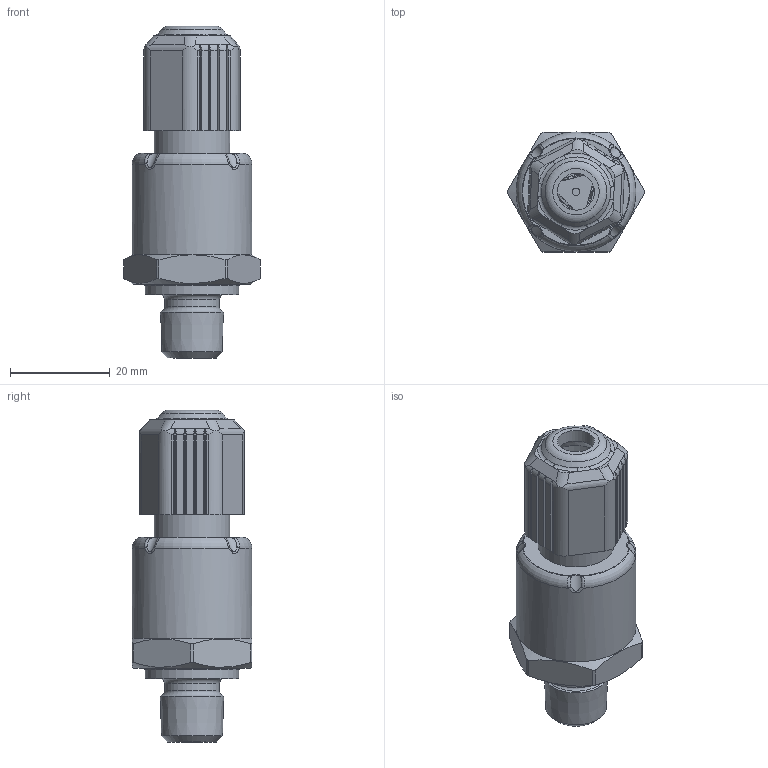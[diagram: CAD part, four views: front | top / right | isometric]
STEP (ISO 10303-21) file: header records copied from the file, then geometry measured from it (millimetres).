
FILE_DESCRIPTION(/* description */ (''),/* implementation_level */ '2;1');
FILE_NAME(/* name */ '560.xxxxAY0000.stp',/* time_stamp */ '2024-06-05T16:21:15+02:00',/* author */ ('uch10269'),/* organization */ (''),/* preprocessor_version */ 'ST-DEVELOPER v19.2',/* originating_system */ 'Autodesk Inventor 2023',/* authorisation */ '');
FILE_SCHEMA (('AUTOMOTIVE_DESIGN { 1 0 10303 214 3 1 1 }'));
Length unit declared in the file: millimetre
Products named in the file (1): Part7
Bounding box: 27.4 x 24 x 66.47 mm (x, y, z)
Volume: 18464.7 mm3; surface area: 8206.3 mm2
Topology: 2 solids, 2 shells, 328 faces, 884 edges, 574 vertices
Faces by surface type: plane 165, cylinder 87, bspline 46, torus 18, cone 12
Full cylindrical faces by diameter (mm): 1.5 x1, 4.2 x1, 7.4 x1, 11 x1, 14 x1, 15.2 x1, 18.8 x1, 24 x1
Entity records: 11887 total; most frequent: CARTESIAN_POINT 3659, ORIENTED_EDGE 1768, DIRECTION 1672, EDGE_CURVE 884, AXIS2_PLACEMENT_3D 600, VERTEX_POINT 574, LINE 472, VECTOR 472
